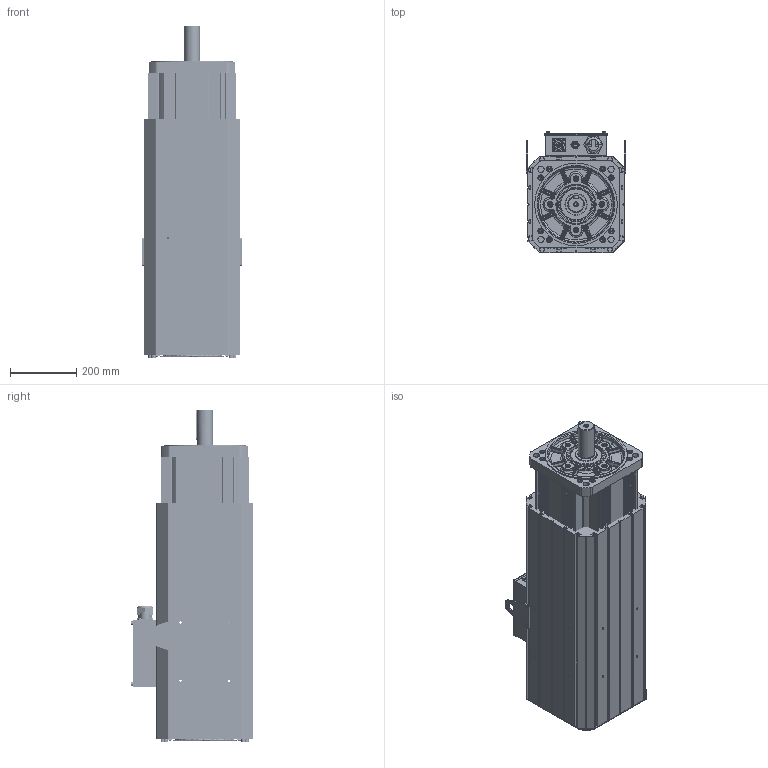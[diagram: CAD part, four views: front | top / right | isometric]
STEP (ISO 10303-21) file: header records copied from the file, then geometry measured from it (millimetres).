
FILE_DESCRIPTION (( 'STEP AP214' ), '1' );
FILE_NAME ('VM7-M26D-05515-D2FNH.STEP', '2022-04-02T01:21:12', ( '' ), ( '' ), 'SwSTEP 2.0', 'SolidWorks 2014', '' );
FILE_SCHEMA (( 'AUTOMOTIVE_DESIGN' ));
Length unit declared in the file: millimetre
Products named in the file (3): 翋极; 俋褲; VM7-M26D-05515-D2FNH
Assembly tree (2 placements, depth 2):
  VM7-M26D-05515-D2FNH
    翋极
    俋褲
Bounding box: 302 x 368.5 x 1005 mm (x, y, z)
Volume: 34805502.1 mm3; surface area: 4419905.3 mm2
Topology: 120 solids, 120 shells, 4432 faces, 11332 edges, 7180 vertices
Faces by surface type: plane 2597, cylinder 1089, bspline 445, cone 301
Entity records: 152572 total; most frequent: CARTESIAN_POINT 45525, ORIENTED_EDGE 22412, DIRECTION 21224, EDGE_CURVE 11206, LINE 7212, VECTOR 7212, VERTEX_POINT 7180, AXIS2_PLACEMENT_3D 7006
